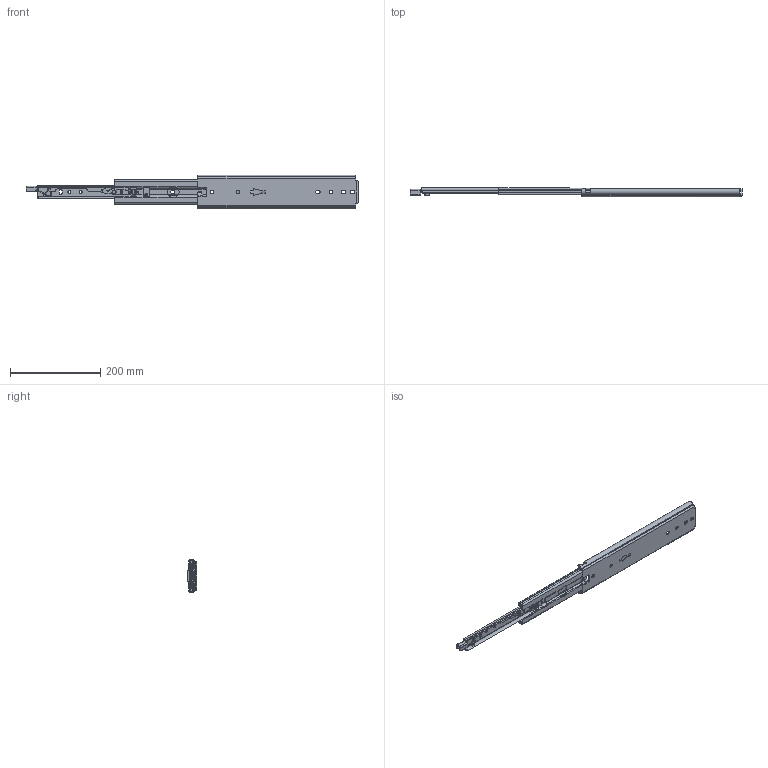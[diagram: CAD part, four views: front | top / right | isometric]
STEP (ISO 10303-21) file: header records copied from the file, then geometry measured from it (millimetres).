
FILE_DESCRIPTION((''),'2;1');
FILE_NAME('DG-76-3S-14YOU_ASM','2023-05-09T',('jishu015'),(''),'PRO/ENGINEER BY PARAMETRIC TECHNOLOGY CORPORATION, 2010280','PRO/ENGINEER BY PARAMETRIC TECHNOLOGY CORPORATION, 2010280','');
FILE_SCHEMA(('CONFIG_CONTROL_DESIGN'));
Length unit declared in the file: millimetre
Products named in the file (29): KP-76-04WAIKE-1816___; 1076-WAIKEZIDANJIAO16___; WAIK16____ASM; 1076XIAOZHUTIAO-22516___; 16___; 1076XIAOZHUTIAO-17516____ASM; KP-76-04ZHONGGUI1816___; 76CHANGGUIZHONGGUIJIAO16___; 3X6WODIN16___; ZHONGGUIBAIKOU16___; PJ-76-30__; PJ-76-03__; 76-XIAOZHUJIA-11__; GANGZHU-XIAO__; ZHUJIA-XIAO___ASM; ZHONGGUI6____ASM; KP-76-04NEIGUI1816___; PJ-76-31__; DAOGPIAN16___; 1053-3SBANJ01__; JIAO-11__; 76XINSUOKOU__; PJ-338__; PJ-356__; PJ-357__; PJ-336__; M4X4__; NEIGUI16____ASM; DG-76-3S-14YOU_ASM
Assembly tree (43 placements, depth 4):
  DG-76-3S-14YOU_ASM
    WAIK16____ASM
      KP-76-04WAIKE-1816___
      1076-WAIKEZIDANJIAO16___  x2
    1076XIAOZHUTIAO-17516____ASM  x2
      1076XIAOZHUTIAO-22516___
      16___
    ZHONGGUI6____ASM
      KP-76-04ZHONGGUI1816___
      76CHANGGUIZHONGGUIJIAO16___
      3X6WODIN16___
      ZHONGGUIBAIKOU16___
      PJ-76-30__
      PJ-76-03__
      ZHUJIA-XIAO___ASM
        76-XIAOZHUJIA-11__
        GANGZHU-XIAO__  x10
    NEIGUI16____ASM
      KP-76-04NEIGUI1816___
      PJ-76-31__
      DAOGPIAN16___
      1053-3SBANJ01__
      JIAO-11__
      76XINSUOKOU__
      PJ-338__
      PJ-356__
      PJ-357__
      PJ-336__
      M4X4__
Bounding box: 737.12 x 20.7 x 75.3 mm (x, y, z)
Volume: 230498.3 mm3; surface area: 222193.6 mm2
Topology: 44 solids, 44 shells, 1530 faces, 4482 edges, 2891 vertices
Faces by surface type: plane 715, cylinder 569, bspline 92, torus 56, sphere 47, cone 28, extrusion 23
Entity records: 55280 total; most frequent: CARTESIAN_POINT 17310, ORIENTED_EDGE 8268, DIRECTION 7465, EDGE_CURVE 4134, VERTEX_POINT 2707, AXIS2_PLACEMENT_3D 2607, VECTOR 2251, LINE 2228
